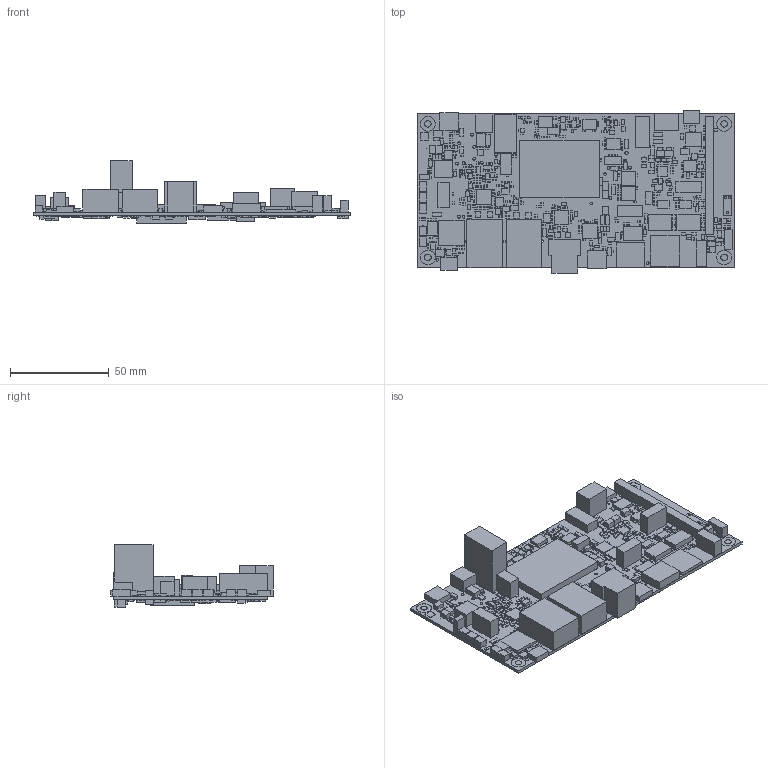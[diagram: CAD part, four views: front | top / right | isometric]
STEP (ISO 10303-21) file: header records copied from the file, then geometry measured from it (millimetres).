
FILE_DESCRIPTION(('FreeCAD Model'),'2;1');
FILE_NAME('P:/Development/PBA-C-24 phyBOARD-Lyra AM62x/Hardware/Schematics/1576.4/PCB/Output/hello.step', '2024-11-15T14:35:19',('Author'),(''), 'Open CASCADE STEP processor 7.3','FreeCAD','Unknown');
FILE_SCHEMA(('AUTOMOTIVE_DESIGN { 1 0 10303 214 1 1 1 1 }'));
Length unit declared in the file: millimetre
Products named in the file (1055): _C104_; _C101_; _C105_; Board_outline; _C100_; _C1_; _C102_; _C106_; _C103_; _C135_; _C138_; _C111_; _C109_; _C127_; _C114_; _C110_; _C115_; _C118_; _C136_; _C108_; _C113_; _C137_; _C123_; _C121_; _C122_; _C117_; _C124_; _C129_; _C112_; _C116_; _C119_; _C120_; _C128_; _C107_; _C130_; _C139_; _C168_; _C213_; _C214_; _C211_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
Bounding box: 160 x 82.25 x 31.62 mm (x, y, z)
Volume: 62525.3 mm3; surface area: 62144.3 mm2
Topology: 1055 solids, 1055 shells, 6466 faces, 13068 edges, 8712 vertices
Faces by surface type: plane 6201, cylinder 265
Full cylindrical faces by diameter (mm): 0.65 x2, 0.8 x72, 0.9 x40, 1 x28, 1.1 x7, 1.2 x5, 1.25 x1, 1.3 x12, 1.35 x2, 1.4 x2, 1.6 x4, 1.7 x3, 2.4 x4, 2.7 x2, 3.3 x4, 3.4 x4, 4.2 x1
Entity records: 355248 total; most frequent: CARTESIAN_POINT 54815, DIRECTION 52596, LINE 38144, VECTOR 38144, ORIENTED_EDGE 26136, PCURVE 26136, DEFINITIONAL_REPRESENTATION 26136, EDGE_CURVE 13068
